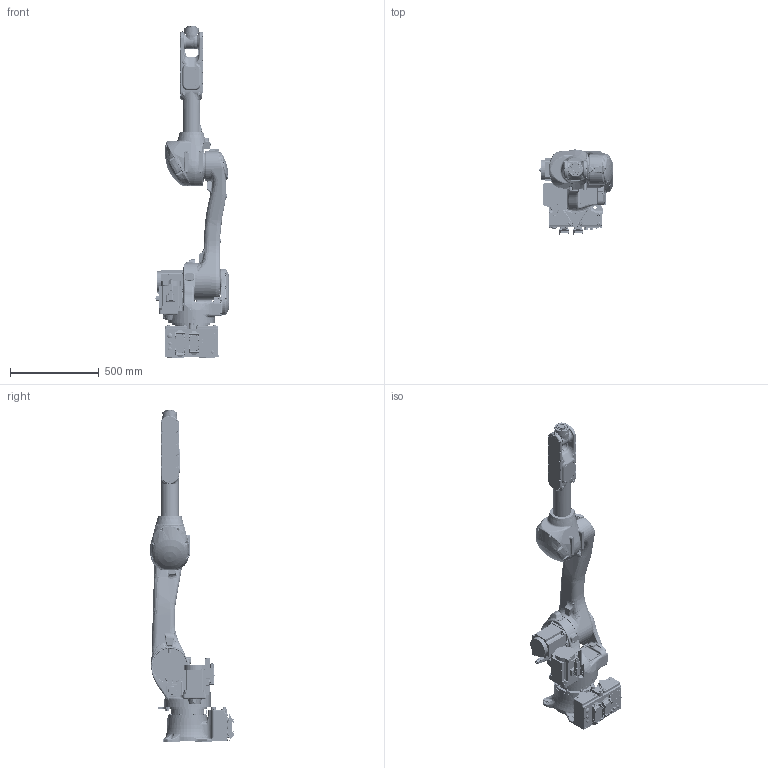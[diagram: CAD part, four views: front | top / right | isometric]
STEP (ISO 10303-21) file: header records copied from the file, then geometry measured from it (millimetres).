
FILE_DESCRIPTION(('CATIA V5 STEP Exchange','CAx-IF Rec.Pracs.--- Composite Materials ---3.4---2017-06-13'),'2;1');
FILE_NAME('D:\モデリング\☆☆☆STEP\RS\RS010\RS010N\RS010N-A001_RARAS_200320_0515\軽量化\Part\step\RA010N-A001_220210\RA010N-A001.stp','2022-02-10T03:48:26+00:00',('none'),('none'),'CATIA Version 5-6 Release 2020 SP4 HF11','CATIA V5 STEP AP203 v2','none');
FILE_SCHEMA(('CONFIG_CONTROL_DESIGN'));
Products named in the file (1): RA010N-A001
Assembly tree (7 placements, depth 2):
  RA010N-A001
    #57
    #45418
    #101227
    #134821
    #165155
    #209188
    #217141
Bounding box: 417 x 477.16 x 1868 mm (x, y, z)
Volume: 57901871.6 mm3; surface area: 2434164.9 mm2
Topology: 10 solids, 10 shells, 5418 faces, 13409 edges, 8230 vertices
Faces by surface type: cylinder 2138, plane 1679, bspline 822, torus 433, cone 235, sphere 85, revolution 14, extrusion 12
Entity records: 222592 total; most frequent: CARTESIAN_POINT 110093, ORIENTED_EDGE 26340, DIRECTION 16649, EDGE_CURVE 13170, AXIS2_PLACEMENT_3D 8286, VERTEX_POINT 8230, EDGE_LOOP 5923, ADVANCED_FACE 5418
